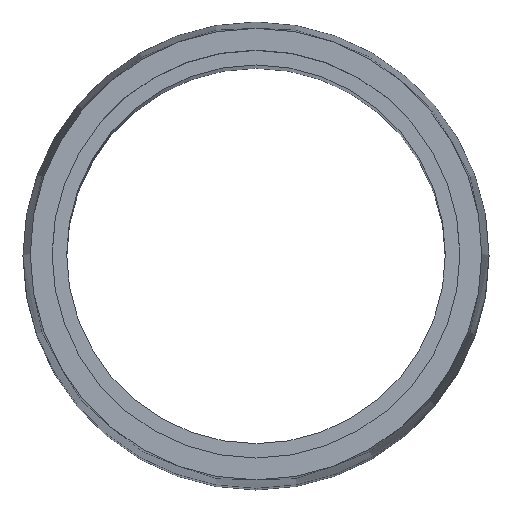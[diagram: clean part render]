
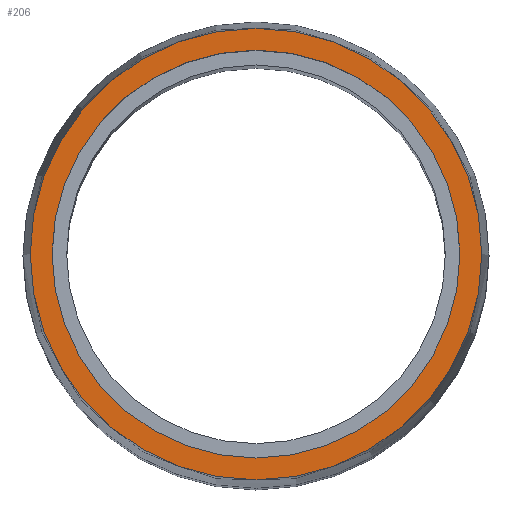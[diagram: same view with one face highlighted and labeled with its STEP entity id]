
A CAD part, top view. The second image highlights one B-rep face of the part: STEP entity #206.
In plain terms, the highlighted planar face has unit normal (0, 0, 1).
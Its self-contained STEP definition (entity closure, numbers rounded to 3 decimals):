
#11 = CARTESIAN_POINT ( 'NONE',  ( 14., 0., 75. ) ) ;
#18 = CARTESIAN_POINT ( 'NONE',  ( -15.5, 0., 75. ) ) ;
#21 = EDGE_LOOP ( 'NONE', ( #351, #444 ) ) ;
#39 = EDGE_CURVE ( 'NONE', #187, #452, #470, .T. ) ;
#59 = CIRCLE ( 'NONE', #342, 15.5 ) ;
#78 = ORIENTED_EDGE ( 'NONE', *, *, #110, .F. ) ;
#85 = ORIENTED_EDGE ( 'NONE', *, *, #200, .F. ) ;
#110 = EDGE_CURVE ( 'NONE', #461, #384, #364, .T. ) ;
#124 = CARTESIAN_POINT ( 'NONE',  ( 0., 0., 75. ) ) ;
#130 = DIRECTION ( 'NONE',  ( 0., 0., 1. ) ) ;
#164 = CARTESIAN_POINT ( 'NONE',  ( 0., 0., 75. ) ) ;
#178 = FACE_OUTER_BOUND ( 'NONE', #21, .T. ) ;
#187 = VERTEX_POINT ( 'NONE', #366 ) ;
#200 = EDGE_CURVE ( 'NONE', #384, #461, #278, .T. ) ;
#205 = CARTESIAN_POINT ( 'NONE',  ( 0., 0., 75. ) ) ;
#206 = ADVANCED_FACE ( 'NONE', ( #432, #178 ), #224, .T. ) ;
#219 = DIRECTION ( 'NONE',  ( 1., 0., 0. ) ) ;
#224 = PLANE ( 'NONE',  #451 ) ;
#234 = DIRECTION ( 'NONE',  ( 0., 0., 1. ) ) ;
#244 = EDGE_LOOP ( 'NONE', ( #78, #85 ) ) ;
#251 = CARTESIAN_POINT ( 'NONE',  ( 0., 0., 75. ) ) ;
#252 = CARTESIAN_POINT ( 'NONE',  ( -14., 0., 75. ) ) ;
#255 = DIRECTION ( 'NONE',  ( 0., 0., 1. ) ) ;
#268 = DIRECTION ( 'NONE',  ( 0., 0., 1. ) ) ;
#278 = CIRCLE ( 'NONE', #463, 14. ) ;
#297 = DIRECTION ( 'NONE',  ( 1., 0., 0. ) ) ;
#307 = DIRECTION ( 'NONE',  ( 1., 0., 0. ) ) ;
#316 = EDGE_CURVE ( 'NONE', #452, #187, #59, .T. ) ;
#342 = AXIS2_PLACEMENT_3D ( 'NONE', #251, #398, #219 ) ;
#351 = ORIENTED_EDGE ( 'NONE', *, *, #316, .T. ) ;
#364 = CIRCLE ( 'NONE', #377, 14. ) ;
#366 = CARTESIAN_POINT ( 'NONE',  ( 15.5, 0., 75. ) ) ;
#377 = AXIS2_PLACEMENT_3D ( 'NONE', #164, #130, #416 ) ;
#379 = DIRECTION ( 'NONE',  ( 1., 0., 0. ) ) ;
#384 = VERTEX_POINT ( 'NONE', #252 ) ;
#390 = AXIS2_PLACEMENT_3D ( 'NONE', #205, #268, #379 ) ;
#398 = DIRECTION ( 'NONE',  ( 0., 0., 1. ) ) ;
#416 = DIRECTION ( 'NONE',  ( 1., 0., 0. ) ) ;
#432 = FACE_BOUND ( 'NONE', #244, .T. ) ;
#444 = ORIENTED_EDGE ( 'NONE', *, *, #39, .T. ) ;
#451 = AXIS2_PLACEMENT_3D ( 'NONE', #124, #255, #297 ) ;
#452 = VERTEX_POINT ( 'NONE', #18 ) ;
#457 = CARTESIAN_POINT ( 'NONE',  ( 0., 0., 75. ) ) ;
#461 = VERTEX_POINT ( 'NONE', #11 ) ;
#463 = AXIS2_PLACEMENT_3D ( 'NONE', #457, #234, #307 ) ;
#470 = CIRCLE ( 'NONE', #390, 15.5 ) ;
